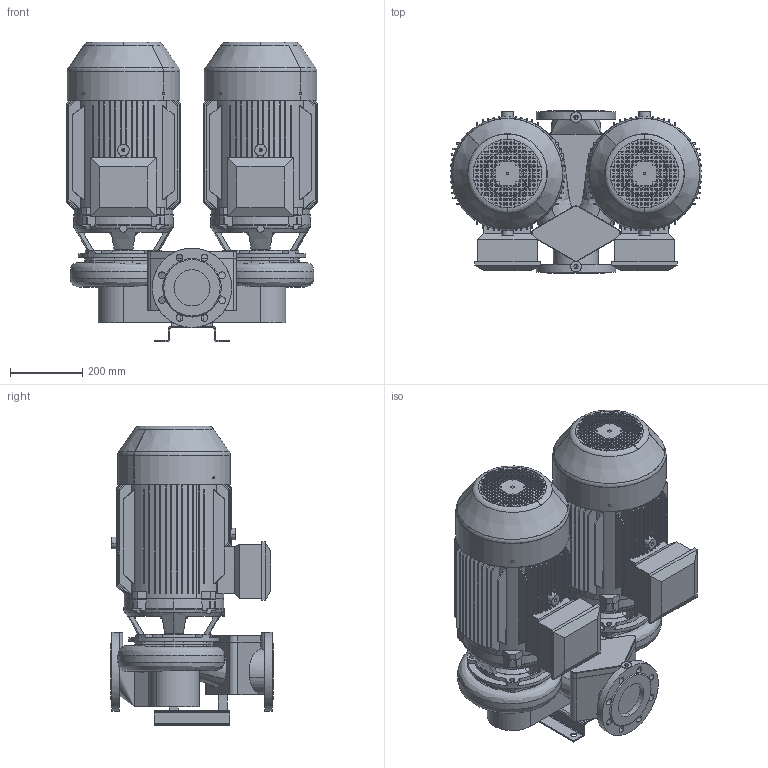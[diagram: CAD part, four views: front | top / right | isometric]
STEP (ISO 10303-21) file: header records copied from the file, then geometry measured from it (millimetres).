
FILE_DESCRIPTION(('STEP AP214'),'1');
FILE_NAME('export.stp','2018-05-28T12:36:03',(' '),(' '),'Spatial InterOp 3D',' ',' ');
FILE_SCHEMA(('AUTOMOTIVE_DESIGN { 1 0 10303 214 1 1 1 1 }'));
Length unit declared in the file: millimetre
Products named in the file (11): W_AT11022130KP166; V_TLL65AB80A1102; V_PPAT1102; V_JALKA35973; V_MKP166-H1-F21; R200574; R201257; R200641; R200587; R201384
Assembly tree (16 placements, depth 3):
  W_AT11022130KP166
    V_TLL65AB80A1102  x2
    V_PPAT1102
    V_JALKA35973
    V_MKP166-H1-F21
      R200574
      R201257
      R200641
      R200587
      R201384
    V_MKP166-H1-F21
      R200574
      R201257
      R200641
      R200587
      R201384
Bounding box: 697 x 450 x 831 mm (x, y, z)
Volume: 61229035.4 mm3; surface area: 10393845.5 mm2
Topology: 14 solids, 14 shells, 3418 faces, 9872 edges, 6524 vertices
Faces by surface type: plane 2393, cylinder 535, cone 290, torus 154, bspline 46
Entity records: 85573 total; most frequent: CARTESIAN_POINT 18385, ORIENTED_EDGE 10658, DIRECTION 9449, EDGE_CURVE 5329, VERTEX_POINT 3528, LINE 3525, VECTOR 3525, AXIS2_PLACEMENT_3D 2962
